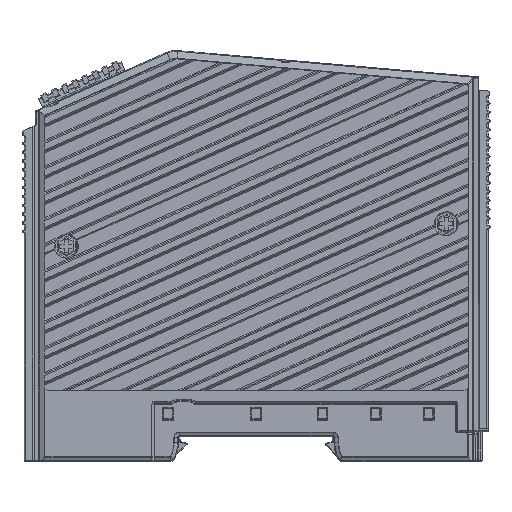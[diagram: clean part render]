
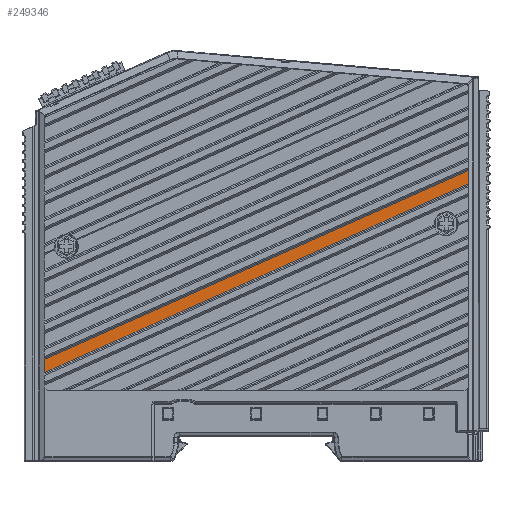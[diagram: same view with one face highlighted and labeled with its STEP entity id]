
A CAD part, left-side view. The second image highlights one B-rep face of the part: STEP entity #249346.
In plain terms, the highlighted planar face has unit normal (-1, 0, 0).
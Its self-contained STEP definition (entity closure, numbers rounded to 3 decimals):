
#12663 = VECTOR ( 'NONE', #92385, 1000. ) ;
#47294 = VERTEX_POINT ( 'NONE', #53669 ) ;
#48415 = CARTESIAN_POINT ( 'NONE',  ( -14.3, -48., 57.263 ) ) ;
#53669 = CARTESIAN_POINT ( 'NONE',  ( -14.3, -48., 60.252 ) ) ;
#59970 = EDGE_CURVE ( 'NONE', #47294, #228544, #289133, .T. ) ;
#85985 = VERTEX_POINT ( 'NONE', #48415 ) ;
#92385 = DIRECTION ( 'NONE',  ( 0., 0.914, -0.407 ) ) ;
#100956 = CARTESIAN_POINT ( 'NONE',  ( -14.3, 48., 72.623 ) ) ;
#110717 = ORIENTED_EDGE ( 'NONE', *, *, #193053, .T. ) ;
#111800 = CARTESIAN_POINT ( 'NONE',  ( -14.3, 48., 17.51 ) ) ;
#132072 = CARTESIAN_POINT ( 'NONE',  ( -14.3, 48., 14.521 ) ) ;
#142096 = AXIS2_PLACEMENT_3D ( 'NONE', #143601, #313000, #265074 ) ;
#143601 = CARTESIAN_POINT ( 'NONE',  ( -14.3, 0., 0. ) ) ;
#144999 = ORIENTED_EDGE ( 'NONE', *, *, #59970, .T. ) ;
#151978 = ORIENTED_EDGE ( 'NONE', *, *, #211314, .T. ) ;
#162272 = DIRECTION ( 'NONE',  ( 0., 0., 1. ) ) ;
#177684 = EDGE_CURVE ( 'NONE', #312230, #85985, #207241, .T. ) ;
#184855 = CARTESIAN_POINT ( 'NONE',  ( -14.3, 13.337, 29.954 ) ) ;
#186904 = CARTESIAN_POINT ( 'NONE',  ( -14.3, 14.447, 32.448 ) ) ;
#193053 = EDGE_CURVE ( 'NONE', #85985, #47294, #302961, .T. ) ;
#207241 = LINE ( 'NONE', #184855, #216801 ) ;
#211314 = EDGE_CURVE ( 'NONE', #228544, #312230, #272092, .T. ) ;
#212431 = PLANE ( 'NONE',  #142096 ) ;
#214751 = EDGE_LOOP ( 'NONE', ( #151978, #310453, #110717, #144999 ) ) ;
#216801 = VECTOR ( 'NONE', #234385, 1000. ) ;
#228544 = VERTEX_POINT ( 'NONE', #111800 ) ;
#234385 = DIRECTION ( 'NONE',  ( 0., -0.914, 0.407 ) ) ;
#249346 = ADVANCED_FACE ( 'NONE', ( #258807 ), #212431, .T. ) ;
#258807 = FACE_OUTER_BOUND ( 'NONE', #214751, .T. ) ;
#265074 = DIRECTION ( 'NONE',  ( 0., 0., 1. ) ) ;
#268004 = VECTOR ( 'NONE', #270522, 1000. ) ;
#270522 = DIRECTION ( 'NONE',  ( 0., 0., -1. ) ) ;
#272092 = LINE ( 'NONE', #100956, #268004 ) ;
#285357 = CARTESIAN_POINT ( 'NONE',  ( -14.3, -48., 8.008 ) ) ;
#289133 = LINE ( 'NONE', #186904, #12663 ) ;
#300097 = VECTOR ( 'NONE', #162272, 1000. ) ;
#302961 = LINE ( 'NONE', #285357, #300097 ) ;
#310453 = ORIENTED_EDGE ( 'NONE', *, *, #177684, .T. ) ;
#312230 = VERTEX_POINT ( 'NONE', #132072 ) ;
#313000 = DIRECTION ( 'NONE',  ( -1., 0., 0. ) ) ;
